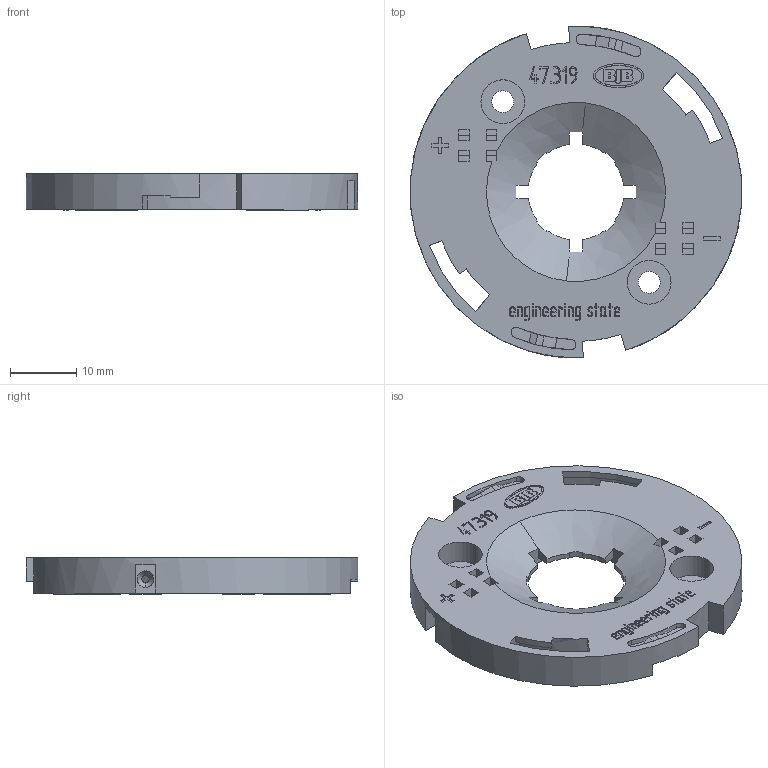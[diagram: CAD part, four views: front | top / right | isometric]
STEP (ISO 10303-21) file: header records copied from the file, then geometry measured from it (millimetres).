
FILE_DESCRIPTION((' '),'1');
FILE_NAME('01TYA41Y03.stp','2015-03-23 T13:48:03',(''),(''),'STEP Interface 2013.192 by CT CoreTechnologie','3D_Evolution2013.192 by CT CoreTechnologie','');
FILE_SCHEMA(('AP203_CONFIGURATION_CONTROLLED_3D_DESIGN_OF_MECHANICAL_PARTS_AND_ASSEMBLIES_MIM_LF'));
Length unit declared in the file: millimetre
Products named in the file (1): 01TYA41Y03
Bounding box: 49.93 x 49.99 x 5.55 mm (x, y, z)
Volume: 3970.2 mm3; surface area: 7633.7 mm2
Topology: 3 solids, 3 shells, 703 faces, 1925 edges, 1280 vertices
Faces by surface type: plane 515, cylinder 106, bspline 82
Entity records: 29897 total; most frequent: CARTESIAN_POINT 6533, ORIENTED_EDGE 3850, DIRECTION 3359, EDGE_CURVE 1925, VECTOR 1503, LINE 1503, VERTEX_POINT 1280, AXIS2_PLACEMENT_3D 928
